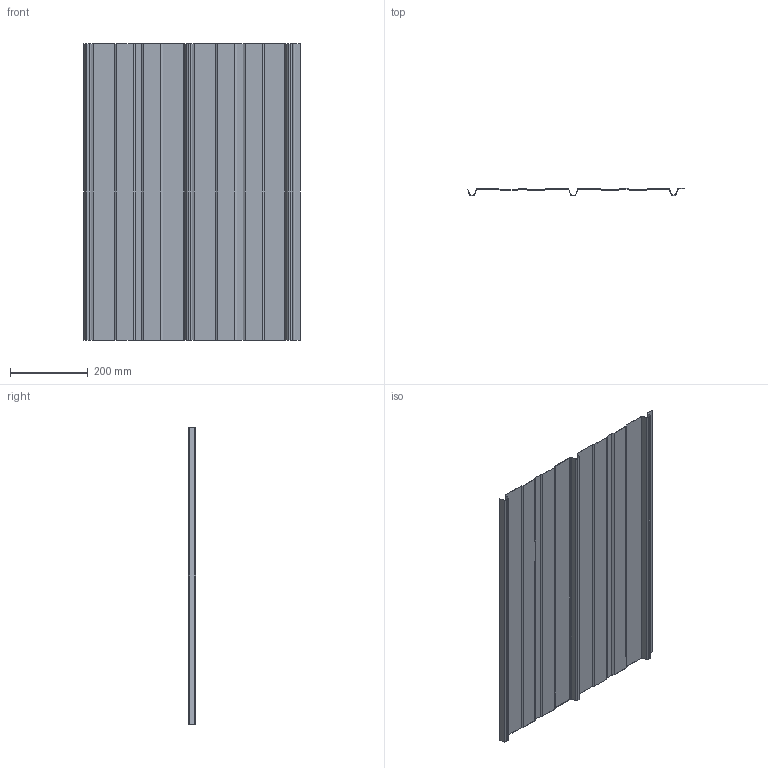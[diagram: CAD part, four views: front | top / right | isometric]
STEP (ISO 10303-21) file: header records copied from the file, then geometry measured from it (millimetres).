
FILE_DESCRIPTION (( 'STEP AP203' ), '1' );
FILE_NAME ('MS750.STEP', '2018-06-14T16:08:27', ( 'Michael Moliner' ), ( '' ), 'SwSTEP 2.0', 'SolidWorks 2018', '' );
FILE_SCHEMA (( 'CONFIG_CONTROL_DESIGN' ));
Length unit declared in the file: inch
Products named in the file (2): MS750
Bounding box: 558.01 x 18.29 x 762 mm (x, y, z)
Volume: 243277.2 mm3; surface area: 959197.1 mm2
Topology: 1 solids, 1 shells, 82 faces, 240 edges, 160 vertices
Faces by surface type: plane 60, cylinder 22
Entity records: 2865 total; most frequent: CARTESIAN_POINT 484, ORIENTED_EDGE 480, DIRECTION 452, EDGE_CURVE 240, LINE 196, VECTOR 196, VERTEX_POINT 160, AXIS2_PLACEMENT_3D 128
